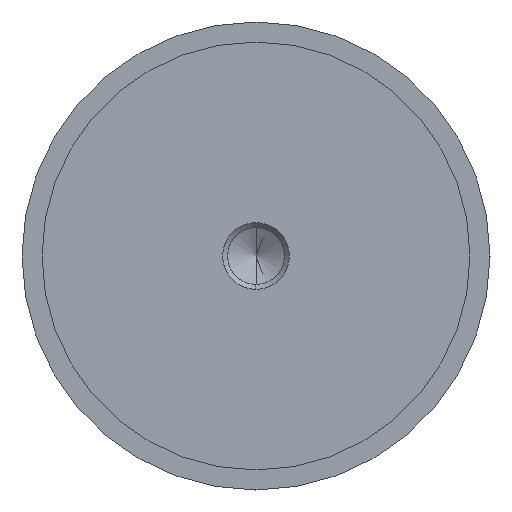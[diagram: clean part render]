
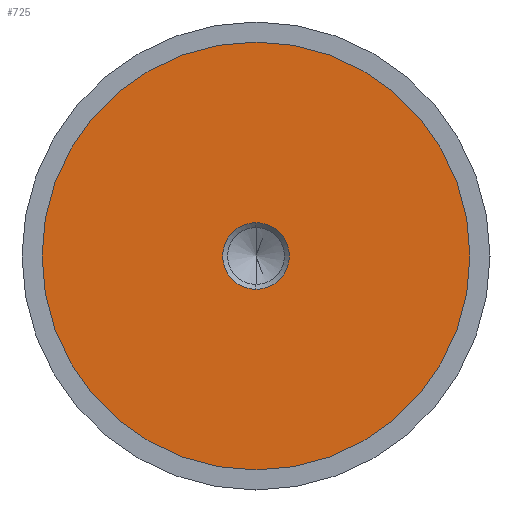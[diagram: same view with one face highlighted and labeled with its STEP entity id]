
A CAD part, left-side view. The second image highlights one B-rep face of the part: STEP entity #725.
In plain terms, the highlighted planar face has unit normal (-1, 0, 0).
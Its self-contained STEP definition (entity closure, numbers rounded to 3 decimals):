
#16 = CARTESIAN_POINT ( 'NONE',  ( -22.49, 0., 0. ) ) ;
#21 = AXIS2_PLACEMENT_3D ( 'NONE', #775, #758, #336 ) ;
#36 = EDGE_LOOP ( 'NONE', ( #235, #82 ) ) ;
#43 = CARTESIAN_POINT ( 'NONE',  ( -22.49, 0., 0. ) ) ;
#55 = CIRCLE ( 'NONE', #200, 32. ) ;
#70 = CIRCLE ( 'NONE', #490, 4.99 ) ;
#82 = ORIENTED_EDGE ( 'NONE', *, *, #317, .T. ) ;
#85 = PLANE ( 'NONE',  #21 ) ;
#86 = EDGE_LOOP ( 'NONE', ( #570, #411 ) ) ;
#148 = DIRECTION ( 'NONE',  ( 0., 0., -1. ) ) ;
#200 = AXIS2_PLACEMENT_3D ( 'NONE', #16, #751, #559 ) ;
#207 = CARTESIAN_POINT ( 'NONE',  ( -22.49, 0., -32. ) ) ;
#208 = CARTESIAN_POINT ( 'NONE',  ( -22.49, 0., 0. ) ) ;
#212 = FACE_OUTER_BOUND ( 'NONE', #86, .T. ) ;
#225 = DIRECTION ( 'NONE',  ( -1., 0., 0. ) ) ;
#231 = VERTEX_POINT ( 'NONE', #654 ) ;
#235 = ORIENTED_EDGE ( 'NONE', *, *, #274, .T. ) ;
#274 = EDGE_CURVE ( 'NONE', #496, #231, #70, .T. ) ;
#288 = CIRCLE ( 'NONE', #588, 4.99 ) ;
#294 = DIRECTION ( 'NONE',  ( 0., 0., -1. ) ) ;
#312 = CARTESIAN_POINT ( 'NONE',  ( -22.49, 0., 4.99 ) ) ;
#317 = EDGE_CURVE ( 'NONE', #231, #496, #288, .T. ) ;
#336 = DIRECTION ( 'NONE',  ( 0., 0., -1. ) ) ;
#386 = CIRCLE ( 'NONE', #652, 32. ) ;
#411 = ORIENTED_EDGE ( 'NONE', *, *, #619, .T. ) ;
#441 = EDGE_CURVE ( 'NONE', #596, #634, #386, .T. ) ;
#462 = FACE_BOUND ( 'NONE', #36, .T. ) ;
#465 = DIRECTION ( 'NONE',  ( 0., 0., 1. ) ) ;
#490 = AXIS2_PLACEMENT_3D ( 'NONE', #672, #598, #294 ) ;
#496 = VERTEX_POINT ( 'NONE', #312 ) ;
#519 = DIRECTION ( 'NONE',  ( 1., 0., 0. ) ) ;
#559 = DIRECTION ( 'NONE',  ( 0., 0., 1. ) ) ;
#570 = ORIENTED_EDGE ( 'NONE', *, *, #441, .T. ) ;
#588 = AXIS2_PLACEMENT_3D ( 'NONE', #208, #519, #148 ) ;
#596 = VERTEX_POINT ( 'NONE', #635 ) ;
#598 = DIRECTION ( 'NONE',  ( 1., 0., 0. ) ) ;
#619 = EDGE_CURVE ( 'NONE', #634, #596, #55, .T. ) ;
#634 = VERTEX_POINT ( 'NONE', #207 ) ;
#635 = CARTESIAN_POINT ( 'NONE',  ( -22.49, 0., 32. ) ) ;
#652 = AXIS2_PLACEMENT_3D ( 'NONE', #43, #225, #465 ) ;
#654 = CARTESIAN_POINT ( 'NONE',  ( -22.49, 0., -4.99 ) ) ;
#672 = CARTESIAN_POINT ( 'NONE',  ( -22.49, 0., 0. ) ) ;
#725 = ADVANCED_FACE ( 'NONE', ( #462, #212 ), #85, .F. ) ;
#751 = DIRECTION ( 'NONE',  ( -1., 0., 0. ) ) ;
#758 = DIRECTION ( 'NONE',  ( 1., 0., 0. ) ) ;
#775 = CARTESIAN_POINT ( 'NONE',  ( -22.49, 32., 0. ) ) ;
